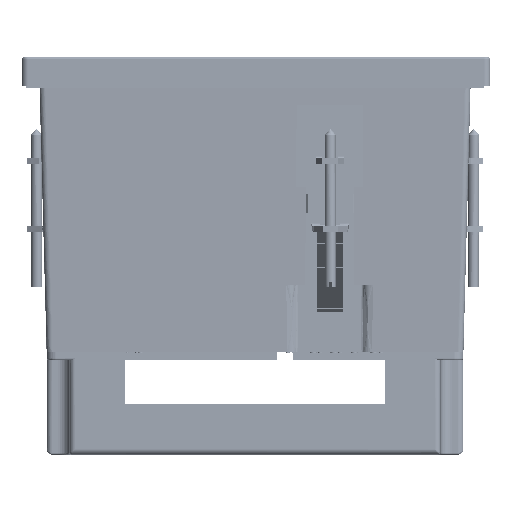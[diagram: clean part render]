
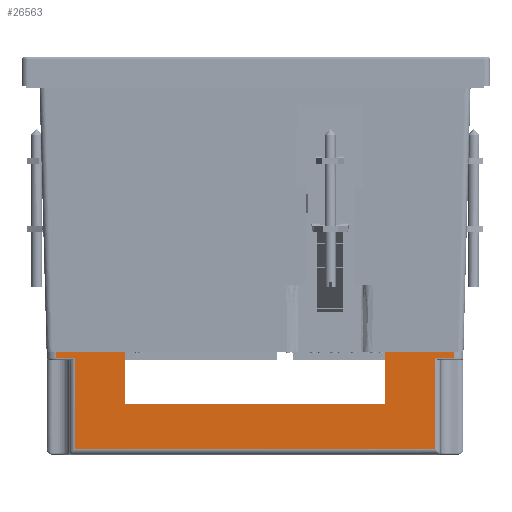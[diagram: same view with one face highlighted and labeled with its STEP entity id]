
A CAD part, front view. The second image highlights one B-rep face of the part: STEP entity #26563.
In plain terms, the highlighted planar face has unit normal (0, -1, 0) as drawn and (1, 0, 0) by its records, which use the part's own axes.
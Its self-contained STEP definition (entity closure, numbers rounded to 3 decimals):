
#1236 = EDGE_CURVE ( 'NONE', #153488, #179510, #224773, .T. ) ;
#1443 = ORIENTED_EDGE ( 'NONE', *, *, #64395, .T. ) ;
#4085 = DIRECTION ( 'NONE',  ( 0., 0., 1. ) ) ;
#8950 = ORIENTED_EDGE ( 'NONE', *, *, #237420, .T. ) ;
#9427 = EDGE_CURVE ( 'NONE', #77840, #247843, #15151, .T. ) ;
#14226 = CARTESIAN_POINT ( 'NONE',  ( 53., -50.5, 1.66 ) ) ;
#15151 = LINE ( 'NONE', #91852, #33301 ) ;
#16187 = CARTESIAN_POINT ( 'NONE',  ( 53., 50.5, 1.66 ) ) ;
#20775 = CARTESIAN_POINT ( 'NONE',  ( 53., 33.15, 13.4 ) ) ;
#23027 = ORIENTED_EDGE ( 'NONE', *, *, #155879, .F. ) ;
#26101 = DIRECTION ( 'NONE',  ( 0., 0., -1. ) ) ;
#26563 = ADVANCED_FACE ( 'NONE', ( #174049 ), #83290, .F. ) ;
#27373 = LINE ( 'NONE', #29853, #153014 ) ;
#29132 = VECTOR ( 'NONE', #191766, 1000. ) ;
#29853 = CARTESIAN_POINT ( 'NONE',  ( 53., -50.5, 1.66 ) ) ;
#31489 = ORIENTED_EDGE ( 'NONE', *, *, #163925, .T. ) ;
#33301 = VECTOR ( 'NONE', #70520, 1000. ) ;
#33918 = CARTESIAN_POINT ( 'NONE',  ( 53., 45.668, 1.66 ) ) ;
#34471 = CARTESIAN_POINT ( 'NONE',  ( 53., 50.5, 0. ) ) ;
#34502 = LINE ( 'NONE', #190544, #29132 ) ;
#34610 = EDGE_CURVE ( 'NONE', #176954, #88997, #105040, .T. ) ;
#45435 = EDGE_CURVE ( 'NONE', #176954, #153488, #34502, .T. ) ;
#48689 = VERTEX_POINT ( 'NONE', #230634 ) ;
#53227 = DIRECTION ( 'NONE',  ( 0., -1., 0. ) ) ;
#59486 = CARTESIAN_POINT ( 'NONE',  ( 53., -33.15, 0. ) ) ;
#62364 = CARTESIAN_POINT ( 'NONE',  ( 53., 50.5, 0. ) ) ;
#64395 = EDGE_CURVE ( 'NONE', #101865, #151780, #160786, .T. ) ;
#68368 = LINE ( 'NONE', #90891, #178857 ) ;
#70520 = DIRECTION ( 'NONE',  ( 0., -1., 0. ) ) ;
#77362 = ORIENTED_EDGE ( 'NONE', *, *, #45435, .F. ) ;
#77840 = VERTEX_POINT ( 'NONE', #16187 ) ;
#83290 = PLANE ( 'NONE',  #149302 ) ;
#88997 = VERTEX_POINT ( 'NONE', #34471 ) ;
#90477 = EDGE_LOOP ( 'NONE', ( #8950, #117135, #1443, #106807, #149590, #165684, #77362, #161917, #23027, #212358, #31489, #91972 ) ) ;
#90891 = CARTESIAN_POINT ( 'NONE',  ( 53., 50.5, 24.7 ) ) ;
#91852 = CARTESIAN_POINT ( 'NONE',  ( 53., 45.668, 1.66 ) ) ;
#91972 = ORIENTED_EDGE ( 'NONE', *, *, #123303, .T. ) ;
#94575 = EDGE_CURVE ( 'NONE', #179510, #227484, #180984, .T. ) ;
#101865 = VERTEX_POINT ( 'NONE', #14226 ) ;
#101995 = DIRECTION ( 'NONE',  ( 0., 1., 0. ) ) ;
#105040 = LINE ( 'NONE', #62364, #155696 ) ;
#105545 = VECTOR ( 'NONE', #26101, 1000. ) ;
#106758 = DIRECTION ( 'NONE',  ( 0., 0., -1. ) ) ;
#106807 = ORIENTED_EDGE ( 'NONE', *, *, #232068, .T. ) ;
#109600 = VECTOR ( 'NONE', #205907, 1000. ) ;
#114821 = CARTESIAN_POINT ( 'NONE',  ( 53., 45.668, 24.7 ) ) ;
#117135 = ORIENTED_EDGE ( 'NONE', *, *, #236949, .T. ) ;
#122357 = LINE ( 'NONE', #176496, #125853 ) ;
#123303 = EDGE_CURVE ( 'NONE', #221300, #129508, #68368, .T. ) ;
#123363 = CARTESIAN_POINT ( 'NONE',  ( 53., 50.5, 0. ) ) ;
#125660 = CARTESIAN_POINT ( 'NONE',  ( 53., -33.15, 13.4 ) ) ;
#125853 = VECTOR ( 'NONE', #4085, 1000. ) ;
#129508 = VERTEX_POINT ( 'NONE', #247458 ) ;
#139092 = DIRECTION ( 'NONE',  ( 0., 1., 0. ) ) ;
#144081 = CARTESIAN_POINT ( 'NONE',  ( 53., 50.5, 26.2 ) ) ;
#149302 = AXIS2_PLACEMENT_3D ( 'NONE', #231867, #176497, #175253 ) ;
#149590 = ORIENTED_EDGE ( 'NONE', *, *, #94575, .F. ) ;
#150046 = CARTESIAN_POINT ( 'NONE',  ( 53., 33.15, 0. ) ) ;
#151780 = VERTEX_POINT ( 'NONE', #174803 ) ;
#153014 = VECTOR ( 'NONE', #183357, 1000. ) ;
#153488 = VERTEX_POINT ( 'NONE', #20775 ) ;
#155696 = VECTOR ( 'NONE', #139092, 1000. ) ;
#155879 = EDGE_CURVE ( 'NONE', #77840, #88997, #184306, .T. ) ;
#160786 = LINE ( 'NONE', #218575, #105545 ) ;
#161917 = ORIENTED_EDGE ( 'NONE', *, *, #34610, .T. ) ;
#163218 = CARTESIAN_POINT ( 'NONE',  ( 53., -33.15, 13.4 ) ) ;
#163925 = EDGE_CURVE ( 'NONE', #247843, #221300, #122357, .T. ) ;
#164975 = VECTOR ( 'NONE', #106758, 1000. ) ;
#165684 = ORIENTED_EDGE ( 'NONE', *, *, #1236, .F. ) ;
#168583 = VECTOR ( 'NONE', #101995, 1000. ) ;
#174049 = FACE_OUTER_BOUND ( 'NONE', #90477, .T. ) ;
#174803 = CARTESIAN_POINT ( 'NONE',  ( 53., -50.5, 0. ) ) ;
#175253 = DIRECTION ( 'NONE',  ( 0., -1., 0. ) ) ;
#176496 = CARTESIAN_POINT ( 'NONE',  ( 53., 45.668, 26.2 ) ) ;
#176497 = DIRECTION ( 'NONE',  ( -1., 0., 0. ) ) ;
#176954 = VERTEX_POINT ( 'NONE', #150046 ) ;
#178857 = VECTOR ( 'NONE', #53227, 1000. ) ;
#179510 = VERTEX_POINT ( 'NONE', #190740 ) ;
#180984 = LINE ( 'NONE', #125660, #164975 ) ;
#182466 = CARTESIAN_POINT ( 'NONE',  ( 53., -45.668, 26.2 ) ) ;
#183357 = DIRECTION ( 'NONE',  ( 0., -1., 0. ) ) ;
#184306 = LINE ( 'NONE', #144081, #212415 ) ;
#185553 = DIRECTION ( 'NONE',  ( 0., 0., -1. ) ) ;
#190544 = CARTESIAN_POINT ( 'NONE',  ( 53., 33.15, 13.4 ) ) ;
#190740 = CARTESIAN_POINT ( 'NONE',  ( 53., -33.15, 13.4 ) ) ;
#191766 = DIRECTION ( 'NONE',  ( 0., 0., 1. ) ) ;
#196952 = VECTOR ( 'NONE', #241559, 1000. ) ;
#205907 = DIRECTION ( 'NONE',  ( 0., -1., 0. ) ) ;
#212358 = ORIENTED_EDGE ( 'NONE', *, *, #9427, .T. ) ;
#212415 = VECTOR ( 'NONE', #185553, 1000. ) ;
#218575 = CARTESIAN_POINT ( 'NONE',  ( 53., -50.5, 26.2 ) ) ;
#218947 = LINE ( 'NONE', #182466, #196952 ) ;
#221300 = VERTEX_POINT ( 'NONE', #114821 ) ;
#221386 = LINE ( 'NONE', #123363, #168583 ) ;
#224773 = LINE ( 'NONE', #163218, #109600 ) ;
#227484 = VERTEX_POINT ( 'NONE', #59486 ) ;
#230634 = CARTESIAN_POINT ( 'NONE',  ( 53., -45.668, 1.66 ) ) ;
#231867 = CARTESIAN_POINT ( 'NONE',  ( 53., 50.5, 26.2 ) ) ;
#232068 = EDGE_CURVE ( 'NONE', #151780, #227484, #221386, .T. ) ;
#236949 = EDGE_CURVE ( 'NONE', #48689, #101865, #27373, .T. ) ;
#237420 = EDGE_CURVE ( 'NONE', #129508, #48689, #218947, .T. ) ;
#241559 = DIRECTION ( 'NONE',  ( 0., 0., -1. ) ) ;
#247458 = CARTESIAN_POINT ( 'NONE',  ( 53., -45.668, 24.7 ) ) ;
#247843 = VERTEX_POINT ( 'NONE', #33918 ) ;
